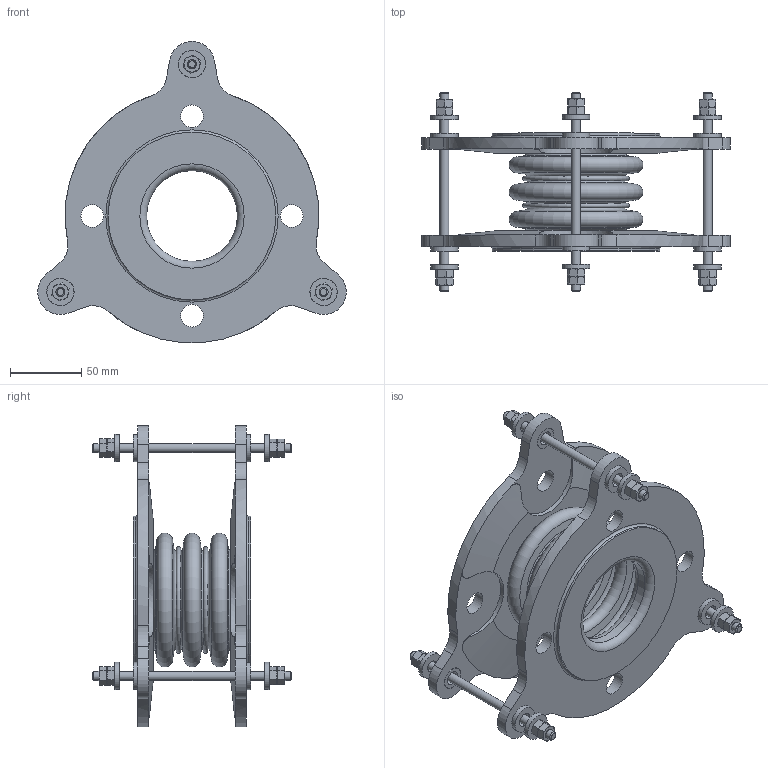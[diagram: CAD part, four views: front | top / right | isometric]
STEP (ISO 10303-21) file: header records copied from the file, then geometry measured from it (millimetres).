
FILE_DESCRIPTION(/* description */ (''),/* implementation_level */ '2;1');
FILE_NAME(/* name */ 'C:\Users\rramoutar\Desktop\803\803 2.5IDx3.25FF.stp',/* time_stamp */ '2016-04-24T17:43:51-04:00',/* author */ ('rramoutar'),/* organization */ ('Mason Industries Inc.'),/* preprocessor_version */ 'ST-DEVELOPER v15.6',/* originating_system */ 'Autodesk Inventor 2015',/* authorisation */ '');
FILE_SCHEMA (('CONFIG_CONTROL_DESIGN'));
Length unit declared in the file: inch
Products named in the file (1): 803 2.5IDx3.25FF
Bounding box: 215.98 x 139.7 x 210.86 mm (x, y, z)
Volume: 550794.7 mm3; surface area: 209527.4 mm2
Topology: 6 solids, 12 shells, 499 faces, 1104 edges, 661 vertices
Faces by surface type: cone 194, plane 164, cylinder 115, torus 26
Full cylindrical faces by diameter (mm): 6.35 x15, 7.938 x6, 9.922 x6, 15.478 x6, 15.875 x14, 19.05 x12, 63.5 x2, 66.675 x2, 68.263 x2, 117.475 x2
Entity records: 12974 total; most frequent: CARTESIAN_POINT 3018, DIRECTION 2032, ORIENTED_EDGE 1884, EDGE_CURVE 942, AXIS2_PLACEMENT_3D 926, EDGE_LOOP 710, VERTEX_POINT 632, FACE_OUTER_BOUND 499
